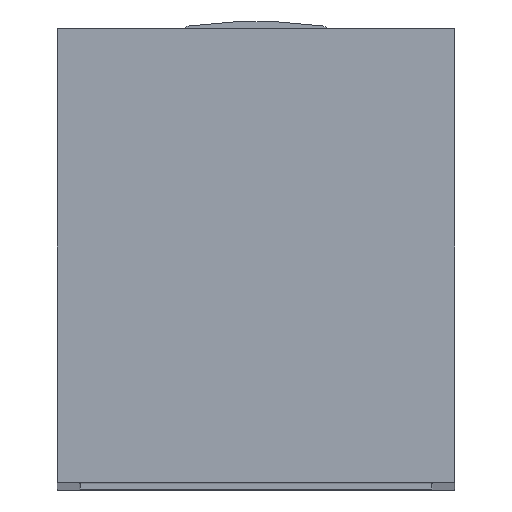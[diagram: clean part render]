
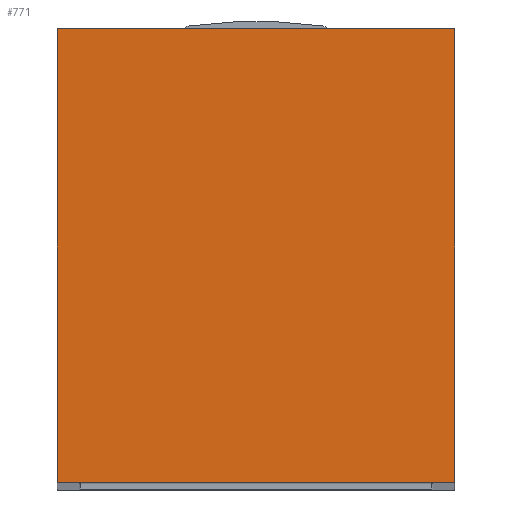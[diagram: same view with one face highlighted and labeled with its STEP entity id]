
A CAD part, top view. The second image highlights one B-rep face of the part: STEP entity #771.
In plain terms, the highlighted planar face has unit normal (0, 0, 1).
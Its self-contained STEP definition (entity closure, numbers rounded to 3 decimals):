
#20 = VECTOR ( 'NONE', #1675, 1000. ) ;
#137 = DIRECTION ( 'NONE',  ( 0., 0., -1. ) ) ;
#190 = EDGE_LOOP ( 'NONE', ( #1204, #2214, #1229, #1634 ) ) ;
#287 = LINE ( 'NONE', #341, #556 ) ;
#289 = VERTEX_POINT ( 'NONE', #2644 ) ;
#307 = AXIS2_PLACEMENT_3D ( 'NONE', #3028, #137, #2148 ) ;
#341 = CARTESIAN_POINT ( 'NONE',  ( -52.5, 0.002, 567. ) ) ;
#411 = PLANE ( 'NONE',  #307 ) ;
#556 = VECTOR ( 'NONE', #948, 1000. ) ;
#597 = VERTEX_POINT ( 'NONE', #1740 ) ;
#629 = VECTOR ( 'NONE', #2752, 1000. ) ;
#771 = ADVANCED_FACE ( 'NONE', ( #1697 ), #411, .F. ) ;
#948 = DIRECTION ( 'NONE',  ( 0., -1., 0. ) ) ;
#1081 = CARTESIAN_POINT ( 'NONE',  ( -52.5, 0.002, 567. ) ) ;
#1204 = ORIENTED_EDGE ( 'NONE', *, *, #1224, .T. ) ;
#1224 = EDGE_CURVE ( 'NONE', #289, #2312, #287, .T. ) ;
#1229 = ORIENTED_EDGE ( 'NONE', *, *, #2856, .T. ) ;
#1308 = LINE ( 'NONE', #1932, #20 ) ;
#1634 = ORIENTED_EDGE ( 'NONE', *, *, #2347, .T. ) ;
#1675 = DIRECTION ( 'NONE',  ( 1., 0., 0. ) ) ;
#1697 = FACE_OUTER_BOUND ( 'NONE', #190, .T. ) ;
#1715 = CARTESIAN_POINT ( 'NONE',  ( 52.5, 120.002, 567. ) ) ;
#1740 = CARTESIAN_POINT ( 'NONE',  ( 52.5, 0.002, 567. ) ) ;
#1932 = CARTESIAN_POINT ( 'NONE',  ( -52.5, 0.002, 567. ) ) ;
#1950 = DIRECTION ( 'NONE',  ( -1., 0., 0. ) ) ;
#2148 = DIRECTION ( 'NONE',  ( -1., 0., 0. ) ) ;
#2214 = ORIENTED_EDGE ( 'NONE', *, *, #2865, .T. ) ;
#2312 = VERTEX_POINT ( 'NONE', #1081 ) ;
#2347 = EDGE_CURVE ( 'NONE', #2366, #289, #3192, .T. ) ;
#2366 = VERTEX_POINT ( 'NONE', #1715 ) ;
#2435 = VECTOR ( 'NONE', #1950, 1000. ) ;
#2505 = CARTESIAN_POINT ( 'NONE',  ( -52.5, 120.002, 567. ) ) ;
#2644 = CARTESIAN_POINT ( 'NONE',  ( -52.5, 120.002, 567. ) ) ;
#2752 = DIRECTION ( 'NONE',  ( 0., 1., 0. ) ) ;
#2803 = CARTESIAN_POINT ( 'NONE',  ( 52.5, 0.002, 567. ) ) ;
#2856 = EDGE_CURVE ( 'NONE', #597, #2366, #3680, .T. ) ;
#2865 = EDGE_CURVE ( 'NONE', #2312, #597, #1308, .T. ) ;
#3028 = CARTESIAN_POINT ( 'NONE',  ( 0., 0., 567. ) ) ;
#3192 = LINE ( 'NONE', #2505, #2435 ) ;
#3680 = LINE ( 'NONE', #2803, #629 ) ;
